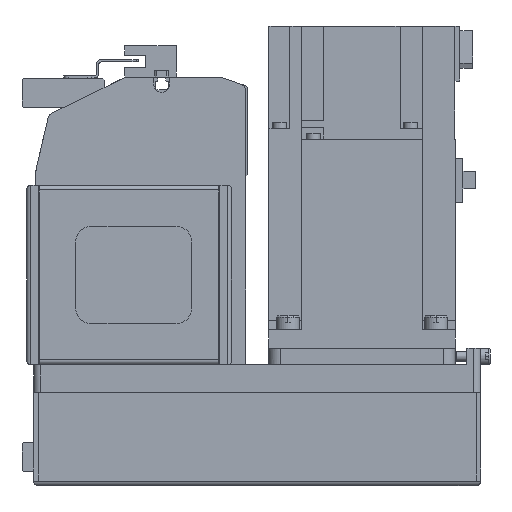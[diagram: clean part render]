
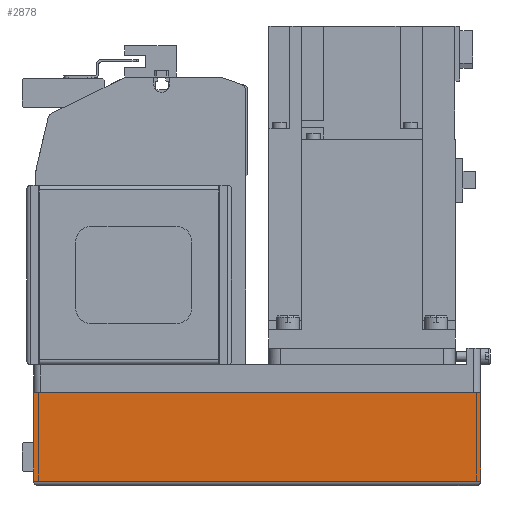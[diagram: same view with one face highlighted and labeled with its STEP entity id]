
A CAD part, left-side view. The second image highlights one B-rep face of the part: STEP entity #2878.
In plain terms, the highlighted planar face has unit normal (-1, 0, 0) as drawn and (0, 1, 0) by its records, which use the part's own axes.
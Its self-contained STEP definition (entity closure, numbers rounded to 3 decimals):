
#2878 = ADVANCED_FACE( '', ( #5953 ), #5954, .T. );
#5953 = FACE_OUTER_BOUND( '', #9075, .T. );
#5954 = PLANE( '', #9076 );
#9075 = EDGE_LOOP( '', ( #17297, #17298, #17299, #17300 ) );
#9076 = AXIS2_PLACEMENT_3D( '', #17301, #17302, #17303 );
#17297 = ORIENTED_EDGE( '', *, *, #20781, .F. );
#17298 = ORIENTED_EDGE( '', *, *, #21212, .F. );
#17299 = ORIENTED_EDGE( '', *, *, #21090, .T. );
#17300 = ORIENTED_EDGE( '', *, *, #21213, .T. );
#17301 = CARTESIAN_POINT( '', ( -192., 40., -50. ) );
#17302 = DIRECTION( '', ( 0., 1., 0. ) );
#17303 = DIRECTION( '', ( 0., 0., 1. ) );
#20781 = EDGE_CURVE( '', #25719, #25728, #25729, .T. );
#21090 = EDGE_CURVE( '', #22370, #26070, #26072, .T. );
#21212 = EDGE_CURVE( '', #22370, #25719, #26197, .T. );
#21213 = EDGE_CURVE( '', #26070, #25728, #26198, .T. );
#22370 = VERTEX_POINT( '', #27800 );
#25719 = VERTEX_POINT( '', #32653 );
#25728 = VERTEX_POINT( '', #32666 );
#25729 = LINE( '', #32667, #32668 );
#26070 = VERTEX_POINT( '', #33137 );
#26072 = LINE( '', #33140, #33141 );
#26197 = LINE( '', #33313, #33314 );
#26198 = LINE( '', #33315, #33316 );
#27800 = CARTESIAN_POINT( '', ( -192., 40., -50. ) );
#32653 = CARTESIAN_POINT( '', ( 0., 40., -50. ) );
#32666 = CARTESIAN_POINT( '', ( 0., 40., -12.1 ) );
#32667 = CARTESIAN_POINT( '', ( 0., 40., -50. ) );
#32668 = VECTOR( '', #36917, 1000. );
#33137 = CARTESIAN_POINT( '', ( -192., 40., -12.1 ) );
#33140 = CARTESIAN_POINT( '', ( -192., 40., -50. ) );
#33141 = VECTOR( '', #37184, 1000. );
#33313 = CARTESIAN_POINT( '', ( -192., 40., -50. ) );
#33314 = VECTOR( '', #37235, 1000. );
#33315 = CARTESIAN_POINT( '', ( -192., 40., -12.1 ) );
#33316 = VECTOR( '', #37236, 1000. );
#36917 = DIRECTION( '', ( 0., 0., 1. ) );
#37184 = DIRECTION( '', ( 0., 0., 1. ) );
#37235 = DIRECTION( '', ( 1., 0., 0. ) );
#37236 = DIRECTION( '', ( 1., 0., 0. ) );
